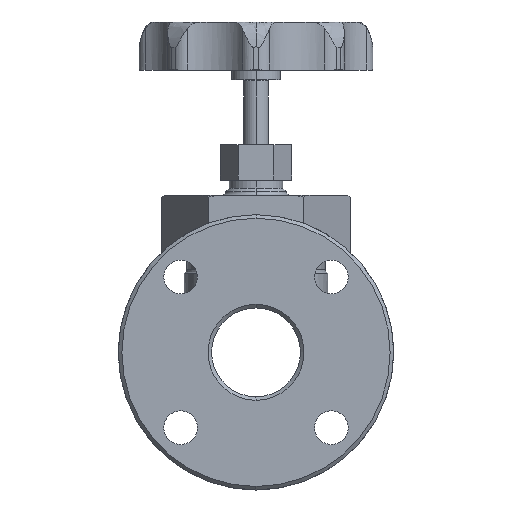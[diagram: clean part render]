
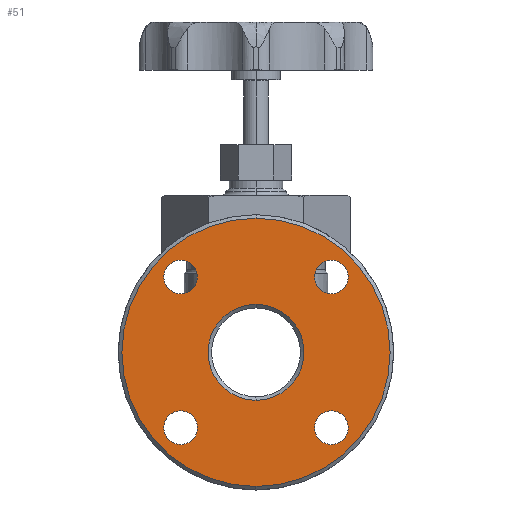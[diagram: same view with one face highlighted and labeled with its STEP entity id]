
A CAD part, left-side view. The second image highlights one B-rep face of the part: STEP entity #51.
In plain terms, the highlighted planar face has unit normal (-1, 0, 0).
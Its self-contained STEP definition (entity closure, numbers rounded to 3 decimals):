
#51=ADVANCED_FACE('',(#389,#390,#391,#392,#393,#394),#388,.F.);
#388=PLANE('',#2770);
#389=FACE_OUTER_BOUND('',#2771,.T.);
#390=FACE_BOUND('',#2772,.T.);
#391=FACE_BOUND('',#2773,.T.);
#392=FACE_BOUND('',#2774,.T.);
#393=FACE_BOUND('',#2775,.T.);
#394=FACE_BOUND('',#2776,.T.);
#2767=CARTESIAN_POINT('',(-101.5,-140.77,85.5));
#2768=DIRECTION('',(1.,0.,0.));
#2769=DIRECTION('',(0.,0.,-1.));
#2770=AXIS2_PLACEMENT_3D('',#2767,#2768,#2769);
#2771=EDGE_LOOP('',(#4583,#4584));
#2772=EDGE_LOOP('',(#4585,#4586));
#2773=EDGE_LOOP('',(#4587,#4588));
#2774=EDGE_LOOP('',(#4589,#4590));
#2775=EDGE_LOOP('',(#4591,#4592));
#2776=EDGE_LOOP('',(#4593,#4594));
#4583=ORIENTED_EDGE('',*,*,#5947,.T.);
#4584=ORIENTED_EDGE('',*,*,#5948,.T.);
#4585=ORIENTED_EDGE('',*,*,#5949,.T.);
#4586=ORIENTED_EDGE('',*,*,#5950,.T.);
#4587=ORIENTED_EDGE('',*,*,#5951,.F.);
#4588=ORIENTED_EDGE('',*,*,#5952,.F.);
#4589=ORIENTED_EDGE('',*,*,#5953,.T.);
#4590=ORIENTED_EDGE('',*,*,#5954,.T.);
#4591=ORIENTED_EDGE('',*,*,#5955,.T.);
#4592=ORIENTED_EDGE('',*,*,#5956,.T.);
#4593=ORIENTED_EDGE('',*,*,#5957,.T.);
#4594=ORIENTED_EDGE('',*,*,#5958,.T.);
#5947=EDGE_CURVE('',#6921,#6922,#6923,.T.);
#5948=EDGE_CURVE('',#6922,#6921,#6929,.T.);
#5949=EDGE_CURVE('',#6935,#6936,#6937,.T.);
#5950=EDGE_CURVE('',#6936,#6935,#6943,.T.);
#5951=EDGE_CURVE('',#6949,#6950,#6951,.T.);
#5952=EDGE_CURVE('',#6950,#6949,#6957,.T.);
#5953=EDGE_CURVE('',#6963,#6964,#6965,.T.);
#5954=EDGE_CURVE('',#6964,#6963,#6971,.T.);
#5955=EDGE_CURVE('',#6977,#6978,#6979,.T.);
#5956=EDGE_CURVE('',#6978,#6977,#6985,.T.);
#5957=EDGE_CURVE('',#6991,#6992,#6993,.T.);
#5958=EDGE_CURVE('',#6992,#6991,#6999,.T.);
#6921=VERTEX_POINT('',#11520);
#6922=VERTEX_POINT('',#11521);
#6923=CIRCLE('',#11525,75.5);
#6929=CIRCLE('',#11529,75.5);
#6935=VERTEX_POINT('',#11530);
#6936=VERTEX_POINT('',#11531);
#6937=CIRCLE('',#11535,9.5);
#6943=CIRCLE('',#11539,9.5);
#6949=VERTEX_POINT('',#11540);
#6950=VERTEX_POINT('',#11541);
#6951=CIRCLE('',#11545,27.);
#6957=CIRCLE('',#11549,27.);
#6963=VERTEX_POINT('',#11550);
#6964=VERTEX_POINT('',#11551);
#6965=CIRCLE('',#11555,9.5);
#6971=CIRCLE('',#11559,9.5);
#6977=VERTEX_POINT('',#11560);
#6978=VERTEX_POINT('',#11561);
#6979=CIRCLE('',#11565,9.5);
#6985=CIRCLE('',#11569,9.5);
#6991=VERTEX_POINT('',#11570);
#6992=VERTEX_POINT('',#11571);
#6993=CIRCLE('',#11575,9.5);
#6999=CIRCLE('',#11579,9.5);
#11520=CARTESIAN_POINT('',(-101.5,0.,75.5));
#11521=CARTESIAN_POINT('',(-101.5,0.,-75.5));
#11522=CARTESIAN_POINT('',(-101.5,0.,0.));
#11523=DIRECTION('',(-1.,0.,0.));
#11524=DIRECTION('',(0.,0.,1.));
#11525=AXIS2_PLACEMENT_3D('',#11522,#11523,#11524);
#11526=CARTESIAN_POINT('',(-101.5,0.,0.));
#11527=DIRECTION('',(-1.,0.,0.));
#11528=DIRECTION('',(0.,0.,1.));
#11529=AXIS2_PLACEMENT_3D('',#11526,#11527,#11528);
#11530=CARTESIAN_POINT('',(-101.5,42.426,-32.926));
#11531=CARTESIAN_POINT('',(-101.5,42.426,-51.926));
#11532=CARTESIAN_POINT('',(-101.5,42.426,-42.426));
#11533=DIRECTION('',(1.,0.,0.));
#11534=DIRECTION('',(0.,0.,1.));
#11535=AXIS2_PLACEMENT_3D('',#11532,#11533,#11534);
#11536=CARTESIAN_POINT('',(-101.5,42.426,-42.426));
#11537=DIRECTION('',(1.,0.,0.));
#11538=DIRECTION('',(0.,0.,1.));
#11539=AXIS2_PLACEMENT_3D('',#11536,#11537,#11538);
#11540=CARTESIAN_POINT('',(-101.5,0.,-27.));
#11541=CARTESIAN_POINT('',(-101.5,0.,27.));
#11542=CARTESIAN_POINT('',(-101.5,0.,0.));
#11543=DIRECTION('',(-1.,0.,0.));
#11544=DIRECTION('',(0.,0.,1.));
#11545=AXIS2_PLACEMENT_3D('',#11542,#11543,#11544);
#11546=CARTESIAN_POINT('',(-101.5,0.,0.));
#11547=DIRECTION('',(-1.,0.,0.));
#11548=DIRECTION('',(0.,0.,1.));
#11549=AXIS2_PLACEMENT_3D('',#11546,#11547,#11548);
#11550=CARTESIAN_POINT('',(-101.5,-42.426,51.926));
#11551=CARTESIAN_POINT('',(-101.5,-42.426,32.926));
#11552=CARTESIAN_POINT('',(-101.5,-42.426,42.426));
#11553=DIRECTION('',(1.,0.,0.));
#11554=DIRECTION('',(0.,0.,1.));
#11555=AXIS2_PLACEMENT_3D('',#11552,#11553,#11554);
#11556=CARTESIAN_POINT('',(-101.5,-42.426,42.426));
#11557=DIRECTION('',(1.,0.,0.));
#11558=DIRECTION('',(0.,0.,1.));
#11559=AXIS2_PLACEMENT_3D('',#11556,#11557,#11558);
#11560=CARTESIAN_POINT('',(-101.5,-42.426,-32.926));
#11561=CARTESIAN_POINT('',(-101.5,-42.426,-51.926));
#11562=CARTESIAN_POINT('',(-101.5,-42.426,-42.426));
#11563=DIRECTION('',(1.,0.,0.));
#11564=DIRECTION('',(0.,0.,1.));
#11565=AXIS2_PLACEMENT_3D('',#11562,#11563,#11564);
#11566=CARTESIAN_POINT('',(-101.5,-42.426,-42.426));
#11567=DIRECTION('',(1.,0.,0.));
#11568=DIRECTION('',(0.,0.,1.));
#11569=AXIS2_PLACEMENT_3D('',#11566,#11567,#11568);
#11570=CARTESIAN_POINT('',(-101.5,42.426,51.926));
#11571=CARTESIAN_POINT('',(-101.5,42.426,32.926));
#11572=CARTESIAN_POINT('',(-101.5,42.426,42.426));
#11573=DIRECTION('',(1.,0.,0.));
#11574=DIRECTION('',(0.,0.,1.));
#11575=AXIS2_PLACEMENT_3D('',#11572,#11573,#11574);
#11576=CARTESIAN_POINT('',(-101.5,42.426,42.426));
#11577=DIRECTION('',(1.,0.,0.));
#11578=DIRECTION('',(0.,0.,1.));
#11579=AXIS2_PLACEMENT_3D('',#11576,#11577,#11578);
